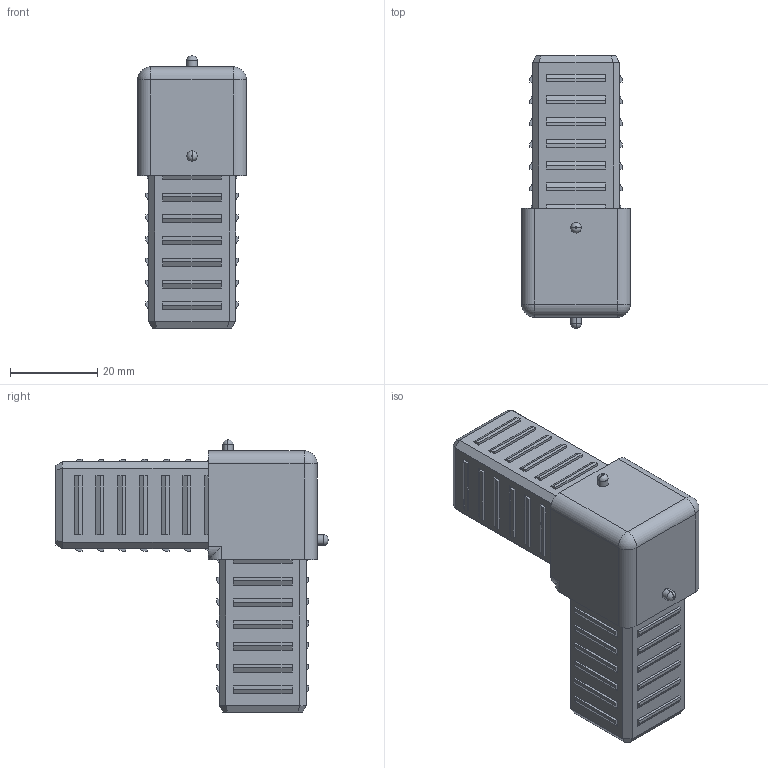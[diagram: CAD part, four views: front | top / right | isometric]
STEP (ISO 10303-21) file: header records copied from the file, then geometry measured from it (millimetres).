
FILE_DESCRIPTION (( 'STEP AP203' ), '1' );
FILE_NAME ('013.025.114.STEP', '2020-09-21T06:58:21', ( '' ), ( '' ), 'SwSTEP 2.0', 'SolidWorks 2018', '' );
FILE_SCHEMA (( 'CONFIG_CONTROL_DESIGN' ));
Length unit declared in the file: millimetre
Products named in the file (1): 013.025.114
Bounding box: 25 x 62.5 x 62.5 mm (x, y, z)
Volume: 23576 mm3; surface area: 17055.7 mm2
Topology: 1 solids, 1 shells, 360 faces, 890 edges, 582 vertices
Faces by surface type: plane 327, cylinder 27, torus 4, sphere 2
Entity records: 10511 total; most frequent: CARTESIAN_POINT 1843, ORIENTED_EDGE 1776, DIRECTION 1664, EDGE_CURVE 888, LINE 826, VECTOR 826, VERTEX_POINT 582, AXIS2_PLACEMENT_3D 419
